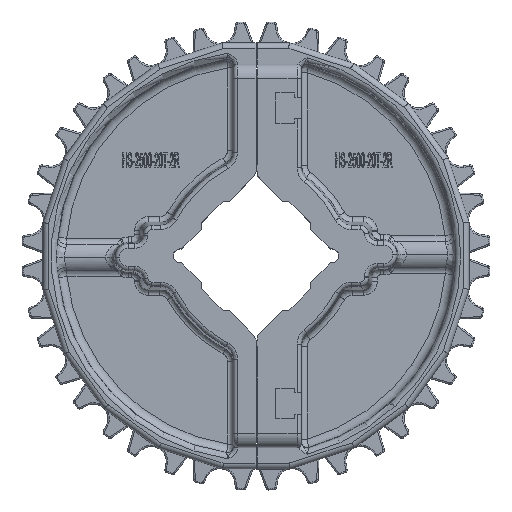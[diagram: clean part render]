
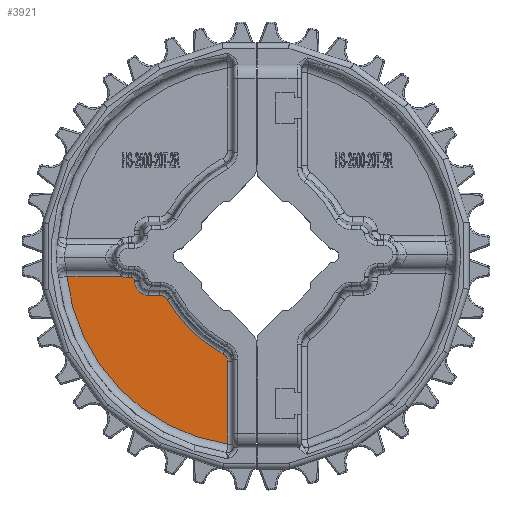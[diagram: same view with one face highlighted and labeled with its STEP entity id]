
A CAD part, top view. The second image highlights one B-rep face of the part: STEP entity #3921.
In plain terms, the highlighted planar face has unit normal (0, 0, 1).
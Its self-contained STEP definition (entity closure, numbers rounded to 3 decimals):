
#2249=FACE_OUTER_BOUND('',#7671,.T.);
#3921=ADVANCED_FACE('',(#2249),#4980,.T.);
#4980=PLANE('',#29281);
#5301=ELLIPSE('',#29279,5.038,5.);
#5302=ELLIPSE('',#29280,1.004,1.);
#6042=CIRCLE('',#29277,7.131);
#6043=CIRCLE('',#29278,66.976);
#7671=EDGE_LOOP('',(#14348,#14349,#14350,#14351,#14352,#14353,#14354,#14355,
#14356,#14357,#14358,#14359));
#9179=B_SPLINE_CURVE_WITH_KNOTS('',3,(#52411,#52412,#52413,#52414,#52415,
#52416,#52417,#52418,#52419,#52420,#52421,#52422,#52423),.UNSPECIFIED.,
 .F.,.F.,(4,3,3,3,4),(0.,0.313,0.625,0.938,
1.),.UNSPECIFIED.);
#9180=B_SPLINE_CURVE_WITH_KNOTS('',3,(#52425,#52426,#52427,#52428,#52429,
#52430),.UNSPECIFIED.,.F.,.F.,(4,2,4),(0.,0.5,1.),.UNSPECIFIED.);
#9181=B_SPLINE_CURVE_WITH_KNOTS('',3,(#52432,#52433,#52434,#52435,#52436,
#52437,#52438,#52439,#52440,#52441,#52442,#52443,#52444),.UNSPECIFIED.,
 .F.,.F.,(4,3,3,3,4),(0.,0.321,0.641,0.961,
1.),.UNSPECIFIED.);
#14348=ORIENTED_EDGE('',*,*,#22995,.T.);
#14349=ORIENTED_EDGE('',*,*,#22996,.T.);
#14350=ORIENTED_EDGE('',*,*,#22997,.F.);
#14351=ORIENTED_EDGE('',*,*,#22998,.T.);
#14352=ORIENTED_EDGE('',*,*,#22999,.T.);
#14353=ORIENTED_EDGE('',*,*,#23000,.T.);
#14354=ORIENTED_EDGE('',*,*,#23001,.T.);
#14355=ORIENTED_EDGE('',*,*,#23002,.T.);
#14356=ORIENTED_EDGE('',*,*,#23003,.T.);
#14357=ORIENTED_EDGE('',*,*,#23004,.T.);
#14358=ORIENTED_EDGE('',*,*,#23005,.T.);
#14359=ORIENTED_EDGE('',*,*,#23006,.T.);
#19616=VERTEX_POINT('',#52403);
#19617=VERTEX_POINT('',#52404);
#19618=VERTEX_POINT('',#52406);
#19619=VERTEX_POINT('',#52408);
#19620=VERTEX_POINT('',#52410);
#19621=VERTEX_POINT('',#52424);
#19622=VERTEX_POINT('',#52431);
#19623=VERTEX_POINT('',#52445);
#19624=VERTEX_POINT('',#52447);
#19625=VERTEX_POINT('',#52449);
#19626=VERTEX_POINT('',#52451);
#19627=VERTEX_POINT('',#52453);
#22995=EDGE_CURVE('',#19616,#19617,#6042,.T.);
#22996=EDGE_CURVE('',#19617,#19618,#25699,.T.);
#22997=EDGE_CURVE('',#19619,#19618,#6043,.T.);
#22998=EDGE_CURVE('',#19619,#19620,#25700,.T.);
#22999=EDGE_CURVE('',#19620,#19621,#9179,.T.);
#23000=EDGE_CURVE('',#19621,#19622,#9180,.T.);
#23001=EDGE_CURVE('',#19622,#19623,#9181,.T.);
#23002=EDGE_CURVE('',#19623,#19624,#25701,.T.);
#23003=EDGE_CURVE('',#19624,#19625,#5301,.T.);
#23004=EDGE_CURVE('',#19625,#19626,#25702,.T.);
#23005=EDGE_CURVE('',#19626,#19627,#5302,.T.);
#23006=EDGE_CURVE('',#19627,#19616,#25703,.T.);
#25699=LINE('',#52405,#27306);
#25700=LINE('',#52409,#27307);
#25701=LINE('',#52446,#27308);
#25702=LINE('',#52450,#27309);
#25703=LINE('',#52454,#27310);
#27306=VECTOR('',#34369,1.);
#27307=VECTOR('',#34372,1.);
#27308=VECTOR('',#34373,1.);
#27309=VECTOR('',#34376,1.);
#27310=VECTOR('',#34379,1.);
#29277=AXIS2_PLACEMENT_3D('',#52402,#34367,#34368);
#29278=AXIS2_PLACEMENT_3D('',#52407,#34370,#34371);
#29279=AXIS2_PLACEMENT_3D('',#52448,#34374,#34375);
#29280=AXIS2_PLACEMENT_3D('',#52452,#34377,#34378);
#29281=AXIS2_PLACEMENT_3D('',#52455,#34380,#34381);
#34367=DIRECTION('',(0.,0.,-1.));
#34368=DIRECTION('',(1.,0.,0.));
#34369=DIRECTION('',(-1.,0.,0.));
#34370=DIRECTION('',(0.,0.,-1.));
#34371=DIRECTION('',(0.707,0.707,0.));
#34372=DIRECTION('',(0.,1.,0.));
#34373=DIRECTION('',(-1.,0.,0.));
#34374=DIRECTION('',(0.,0.,-1.));
#34375=DIRECTION('',(-0.707,-0.707,0.));
#34376=DIRECTION('',(0.,1.,0.));
#34377=DIRECTION('',(0.,0.,1.));
#34378=DIRECTION('',(0.929,0.371,0.));
#34379=DIRECTION('',(-1.,0.,0.));
#34380=DIRECTION('',(0.,0.,1.));
#34381=DIRECTION('',(-0.454,0.891,0.));
#52402=CARTESIAN_POINT('',(1359.851,468.417,28.498));
#52403=CARTESIAN_POINT('',(1359.851,461.285,28.498));
#52404=CARTESIAN_POINT('',(1357.442,461.704,28.498));
#52405=CARTESIAN_POINT('',(1338.029,461.704,28.498));
#52406=CARTESIAN_POINT('',(1338.176,461.704,28.498));
#52407=CARTESIAN_POINT('',(1404.757,468.972,28.498));
#52408=CARTESIAN_POINT('',(1394.757,402.747,28.498));
#52409=CARTESIAN_POINT('',(1394.757,431.729,28.498));
#52410=CARTESIAN_POINT('',(1394.757,431.848,28.498));
#52411=CARTESIAN_POINT('',(1394.757,431.848,28.498));
#52412=CARTESIAN_POINT('',(1394.757,432.184,28.498));
#52413=CARTESIAN_POINT('',(1394.699,432.526,28.498));
#52414=CARTESIAN_POINT('',(1394.587,432.844,28.498));
#52415=CARTESIAN_POINT('',(1394.476,433.161,28.498));
#52416=CARTESIAN_POINT('',(1394.308,433.464,28.498));
#52417=CARTESIAN_POINT('',(1394.098,433.727,28.498));
#52418=CARTESIAN_POINT('',(1393.887,433.99,28.498));
#52419=CARTESIAN_POINT('',(1393.629,434.22,28.498));
#52420=CARTESIAN_POINT('',(1393.343,434.398,28.498));
#52421=CARTESIAN_POINT('',(1393.285,434.434,28.498));
#52422=CARTESIAN_POINT('',(1393.226,434.469,28.498));
#52423=CARTESIAN_POINT('',(1393.166,434.501,28.498));
#52424=CARTESIAN_POINT('',(1393.166,434.501,28.498));
#52425=CARTESIAN_POINT('',(1393.166,434.501,28.498));
#52426=CARTESIAN_POINT('',(1389.05,436.695,28.498));
#52427=CARTESIAN_POINT('',(1385.266,439.462,28.498));
#52428=CARTESIAN_POINT('',(1378.64,445.925,28.498));
#52429=CARTESIAN_POINT('',(1375.825,449.564,28.498));
#52430=CARTESIAN_POINT('',(1373.523,453.621,28.498));
#52431=CARTESIAN_POINT('',(1373.523,453.621,28.498));
#52432=CARTESIAN_POINT('',(1373.523,453.621,28.498));
#52433=CARTESIAN_POINT('',(1373.357,453.913,28.498));
#52434=CARTESIAN_POINT('',(1373.139,454.181,28.498));
#52435=CARTESIAN_POINT('',(1372.885,454.402,28.498));
#52436=CARTESIAN_POINT('',(1372.632,454.623,28.498));
#52437=CARTESIAN_POINT('',(1372.337,454.803,28.498));
#52438=CARTESIAN_POINT('',(1372.025,454.927,28.498));
#52439=CARTESIAN_POINT('',(1371.714,455.051,28.498));
#52440=CARTESIAN_POINT('',(1371.377,455.123,28.498));
#52441=CARTESIAN_POINT('',(1371.042,455.137,28.498));
#52442=CARTESIAN_POINT('',(1371.001,455.139,28.498));
#52443=CARTESIAN_POINT('',(1370.96,455.14,28.498));
#52444=CARTESIAN_POINT('',(1370.918,455.14,28.498));
#52445=CARTESIAN_POINT('',(1370.918,455.14,28.498));
#52446=CARTESIAN_POINT('',(1459.014,455.14,28.498));
#52447=CARTESIAN_POINT('',(1367.,455.14,28.498));
#52448=CARTESIAN_POINT('',(1367.038,460.159,28.498));
#52449=CARTESIAN_POINT('',(1362.019,460.121,28.498));
#52450=CARTESIAN_POINT('',(1362.019,460.224,28.498));
#52451=CARTESIAN_POINT('',(1362.019,460.288,28.498));
#52452=CARTESIAN_POINT('',(1361.015,460.285,28.498));
#52453=CARTESIAN_POINT('',(1361.018,461.285,28.498));
#52454=CARTESIAN_POINT('',(1359.851,461.285,28.498));
#52455=CARTESIAN_POINT('',(1459.014,522.547,28.498));
